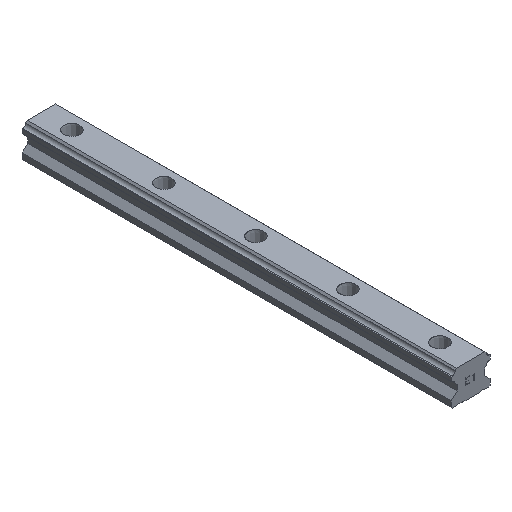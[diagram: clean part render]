
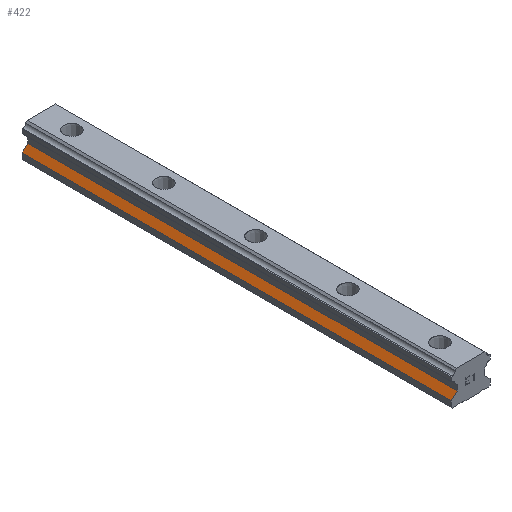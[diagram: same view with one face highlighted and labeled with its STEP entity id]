
A CAD part, isometric view. The second image highlights one B-rep face of the part: STEP entity #422.
In plain terms, the highlighted planar face has unit normal (-0.706, 0, 0.708).
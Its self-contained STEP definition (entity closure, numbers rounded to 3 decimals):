
#422=ADVANCED_FACE('',(#1640),#1642,.T.);
#1640=FACE_BOUND('',#1641,.T.);
#1641=EDGE_LOOP('',(#2520,#2521,#2522,#2523));
#1642=PLANE('',#1643);
#1643=AXIS2_PLACEMENT_3D('',#1644,#1645,#1646);
#1644=CARTESIAN_POINT('',(-22.136,700.,20.247));
#1645=DIRECTION('',(-0.706,0.,0.708));
#1646=DIRECTION('',(-0.708,0.,-0.706));
#2520=ORIENTED_EDGE('',*,*,#3179,.F.);
#2521=ORIENTED_EDGE('',*,*,#3304,.T.);
#2522=ORIENTED_EDGE('',*,*,#3212,.F.);
#2523=ORIENTED_EDGE('',*,*,#3305,.F.);
#3179=EDGE_CURVE('',#3520,#3522,#3523,.T.);
#3212=EDGE_CURVE('',#3584,#3586,#3587,.T.);
#3304=EDGE_CURVE('',#3520,#3586,#3746,.T.);
#3305=EDGE_CURVE('',#3522,#3584,#3747,.T.);
#3520=VERTEX_POINT('',#6950);
#3522=VERTEX_POINT('',#6954);
#3523=LINE('',#6955,#6956);
#3584=VERTEX_POINT('',#7080);
#3586=VERTEX_POINT('',#7084);
#3587=LINE('',#7085,#7086);
#3746=LINE('',#8944,#8945);
#3747=LINE('',#8947,#8948);
#6950=CARTESIAN_POINT('',(-22.136,0.,20.247));
#6954=CARTESIAN_POINT('',(-31.5,0.,10.908));
#6955=CARTESIAN_POINT('',(-22.136,0.,20.247));
#6956=VECTOR('',#6957,1.);
#6957=DIRECTION('',(-0.708,0.,-0.706));
#7080=CARTESIAN_POINT('',(-31.5,700.,10.908));
#7084=CARTESIAN_POINT('',(-22.136,700.,20.247));
#7085=CARTESIAN_POINT('',(-31.5,700.,10.908));
#7086=VECTOR('',#7087,1.);
#7087=DIRECTION('',(0.708,0.,0.706));
#8944=CARTESIAN_POINT('',(-22.136,0.,20.247));
#8945=VECTOR('',#8946,1.);
#8946=DIRECTION('',(0.,1.,0.));
#8947=CARTESIAN_POINT('',(-31.5,0.,10.908));
#8948=VECTOR('',#8949,1.);
#8949=DIRECTION('',(0.,1.,0.));
